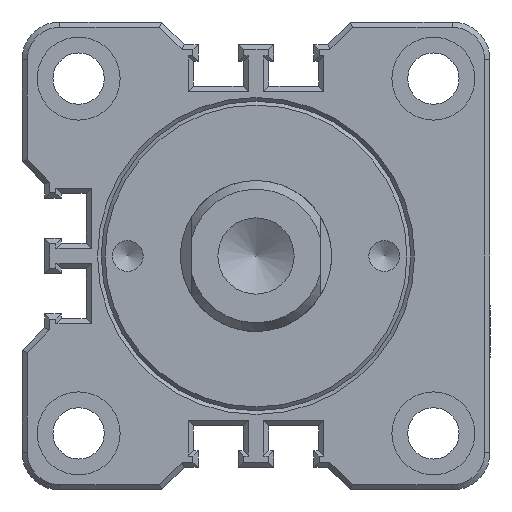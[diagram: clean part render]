
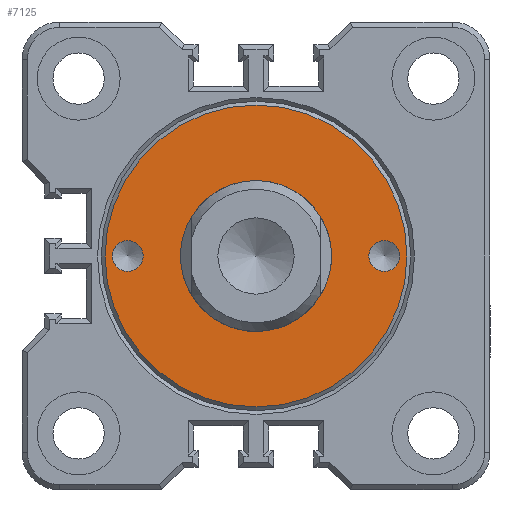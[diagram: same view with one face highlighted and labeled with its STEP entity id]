
A CAD part, front view. The second image highlights one B-rep face of the part: STEP entity #7125.
In plain terms, the highlighted planar face has unit normal (0, -1, 0).
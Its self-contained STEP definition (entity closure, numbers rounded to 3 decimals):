
#1500=ORIENTED_EDGE('',*,*,#2719,.T.);
#1501=ORIENTED_EDGE('',*,*,#2718,.F.);
#1502=ORIENTED_EDGE('',*,*,#2717,.T.);
#1503=ORIENTED_EDGE('',*,*,#2746,.T.);
#2717=EDGE_CURVE('',#3364,#3364,#3746,.T.);
#2718=EDGE_CURVE('',#3365,#3365,#3747,.T.);
#2719=EDGE_CURVE('',#3366,#3366,#3748,.T.);
#2746=EDGE_CURVE('',#3387,#3387,#3751,.T.);
#3364=VERTEX_POINT('',#9913);
#3365=VERTEX_POINT('',#9916);
#3366=VERTEX_POINT('',#9919);
#3387=VERTEX_POINT('',#10090);
#3746=CIRCLE('',#7450,2.05);
#3747=CIRCLE('',#7452,10.);
#3748=CIRCLE('',#7454,2.05);
#3751=CIRCLE('',#7460,20.);
#3891=EDGE_LOOP('',(#1500));
#3892=EDGE_LOOP('',(#1501));
#3893=EDGE_LOOP('',(#1502));
#3894=EDGE_LOOP('',(#1503));
#4277=FACE_BOUND('',#3891,.T.);
#4278=FACE_BOUND('',#3892,.T.);
#4279=FACE_BOUND('',#3893,.T.);
#4280=FACE_BOUND('',#3894,.T.);
#4603=PLANE('',#7459);
#7125=ADVANCED_FACE('',(#4277,#4278,#4279,#4280),#4603,.T.);
#7450=AXIS2_PLACEMENT_3D('',#9912,#7940,#7941);
#7452=AXIS2_PLACEMENT_3D('',#9915,#7944,#7945);
#7454=AXIS2_PLACEMENT_3D('',#9918,#7948,#7949);
#7459=AXIS2_PLACEMENT_3D('',#10088,#7958,#7959);
#7460=AXIS2_PLACEMENT_3D('',#10089,#7960,#7961);
#7940=DIRECTION('',(0.,1.,0.));
#7941=DIRECTION('',(0.,0.,-1.));
#7944=DIRECTION('',(0.,-1.,0.));
#7945=DIRECTION('',(1.,0.,0.));
#7948=DIRECTION('',(0.,1.,0.));
#7949=DIRECTION('',(0.,0.,-1.));
#7958=DIRECTION('',(0.,-1.,0.));
#7959=DIRECTION('',(1.,0.,0.));
#7960=DIRECTION('',(0.,-1.,0.));
#7961=DIRECTION('',(0.,0.,-1.));
#9912=CARTESIAN_POINT('',(-17.,0.,0.));
#9913=CARTESIAN_POINT('',(-17.,0.,-2.05));
#9915=CARTESIAN_POINT('',(0.,0.,0.));
#9916=CARTESIAN_POINT('',(10.,0.,0.));
#9918=CARTESIAN_POINT('',(17.,0.,0.));
#9919=CARTESIAN_POINT('',(17.,0.,-2.05));
#10088=CARTESIAN_POINT('',(-26.,0.,26.));
#10089=CARTESIAN_POINT('',(0.,0.,0.));
#10090=CARTESIAN_POINT('',(0.,0.,-20.));
